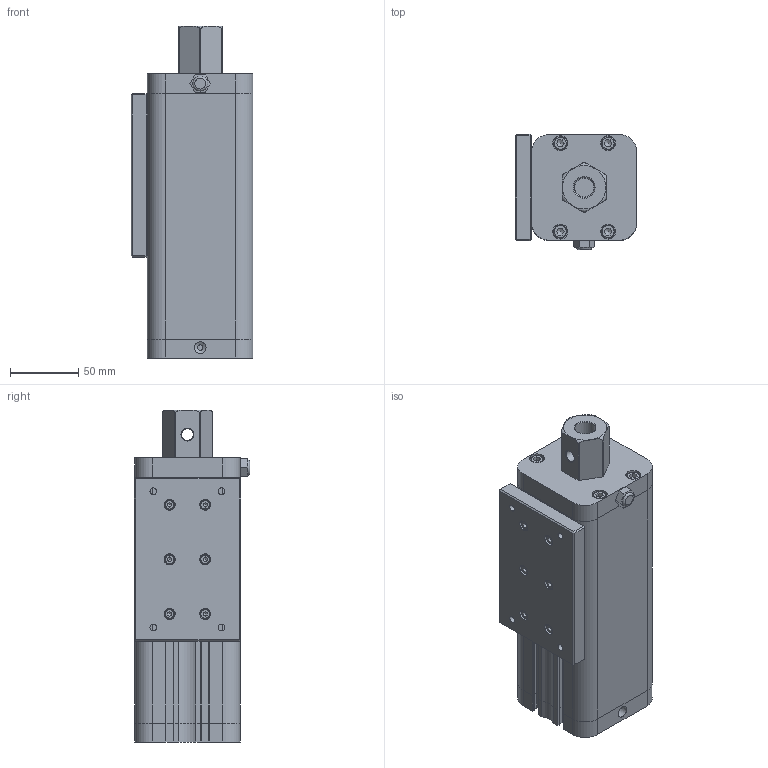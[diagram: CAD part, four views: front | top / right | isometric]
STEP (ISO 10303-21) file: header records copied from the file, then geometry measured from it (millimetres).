
FILE_DESCRIPTION(/* description */ ('Luft -Öl Druckölerzeuger Air - Oil Pressure Intensifier'),/* implementation_level */ '2;1');
FILE_NAME(/* name */ 'Druckbersetzer 1410.30.00.stp',/* time_stamp */ '2026-06-22T15:01:00+02:00',/* author */ ('HWalkhoff'),/* organization */ (''),/* preprocessor_version */ 'ST-DEVELOPER v20.1',/* originating_system */ 'Autodesk Inventor 2026',/* authorisation */ '');
FILE_SCHEMA (('AUTOMOTIVE_DESIGN { 1 0 10303 214 3 1 1 }'));
Length unit declared in the file: millimetre
Products named in the file (14): 1410.30.00; 1410.20.21; 1410.20.17; 1410.20.26; DIN 1804 - M28; Hochdruckzylinder K; J-SD5-1/8-SB-S; 30,0 x 2,0; 56,82 x 2,65  (140); 63,0 x 1,0; 1410.20.22; 1410.20.28; DIN 912 - M4 x 12; DIN 7500 EE-M6 x 25
Assembly tree (26 placements, depth 2):
  1410.30.00
    1410.20.21
    1410.20.17
    1410.20.26
    DIN 1804 - M28
    Hochdruckzylinder K
    J-SD5-1/8-SB-S
    30,0 x 2,0
    56,82 x 2,65  (140)
    63,0 x 1,0
    1410.20.22
    1410.20.28  x2
    DIN 912 - M4 x 12  x6
    DIN 7500 EE-M6 x 25  x8
Bounding box: 89.4 x 84.7 x 243.4 mm (x, y, z)
Volume: 608871.5 mm3; surface area: 278514.2 mm2
Topology: 26 solids, 26 shells, 731 faces, 1868 edges, 1231 vertices
Faces by surface type: plane 391, cylinder 253, cone 52, torus 32, bspline 3
Full cylindrical faces by diameter (mm): 3.242 x6, 4 x7, 4.5 x6, 4.917 x4, 5 x1, 5.5 x4, 6 x8, 6.5 x5, 6.6 x4, 6.647 x4, 7 x6, 8 x6, 8.5 x1, 8.566 x4, 9.73 x1, 10 x8, 10.5 x4, 11 x8, 14 x1, 14.95 x1, 20.5 x1, 26 x1, 26.376 x1, 28 x2, 30 x3, 33.3 x1, 37 x1, 43 x1, 45.4 x1, 52 x1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
Entity records: 17957 total; most frequent: CARTESIAN_POINT 3478, DIRECTION 3046, ORIENTED_EDGE 2798, EDGE_CURVE 1399, AXIS2_PLACEMENT_3D 1105, VERTEX_POINT 921, LINE 836, VECTOR 836
